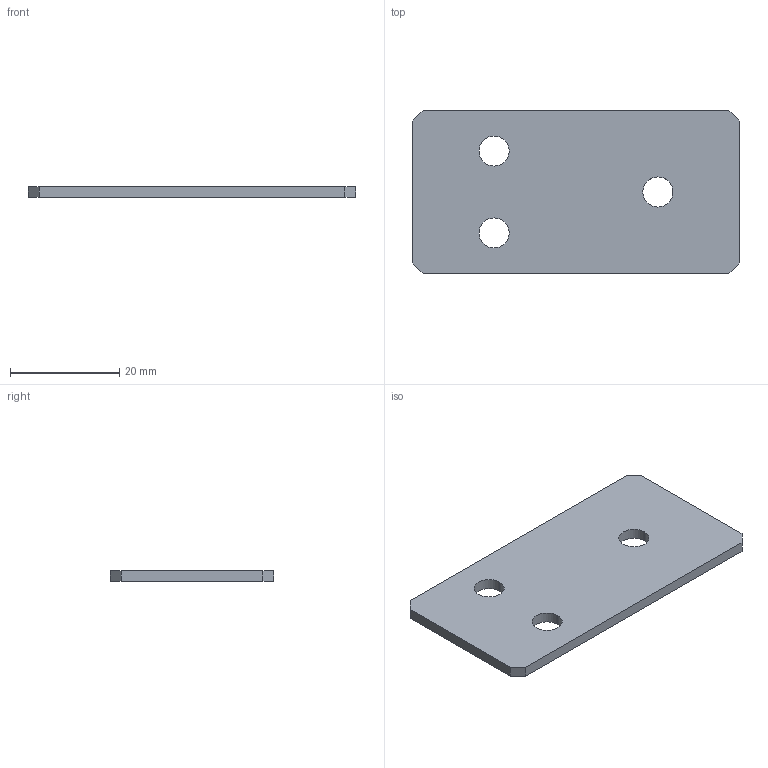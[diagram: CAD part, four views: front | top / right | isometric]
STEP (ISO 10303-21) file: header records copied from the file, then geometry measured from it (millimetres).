
FILE_DESCRIPTION (( 'STEP AP203' ), '1' );
FILE_NAME ('013.100.062.STEP', '2023-09-19T06:27:06', ( '' ), ( '' ), 'SwSTEP 2.0', 'SolidWorks 2021', '' );
FILE_SCHEMA (( 'CONFIG_CONTROL_DESIGN' ));
Length unit declared in the file: millimetre
Products named in the file (1): 013.100.062
Bounding box: 60 x 30 x 2 mm (x, y, z)
Volume: 3441.5 mm3; surface area: 3895.8 mm2
Topology: 1 solids, 1 shells, 16 faces, 42 edges, 28 vertices
Faces by surface type: plane 10, cylinder 6
Entity records: 587 total; most frequent: DIRECTION 88, CARTESIAN_POINT 87, ORIENTED_EDGE 84, EDGE_CURVE 42, VECTOR 30, LINE 30, AXIS2_PLACEMENT_3D 29, VERTEX_POINT 28
